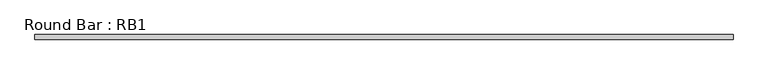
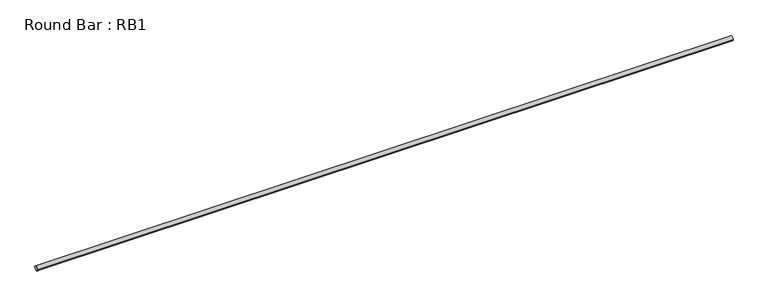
"""IFC4 building model written with IfcOpenShell, lengths in millimetres: beam geometry, Round Bar : RB1."""

from ifc_helpers import new_model, si_unit, point, frame, origin, origin_2d, place, context, project, spatial, circle_curve, trimmed, segment, composite_curve, outline, extrude, source, transform, mapped, element, save


def round_bar_rb1_903308a8(model_context):
    return source(origin(), model_context, "Body", "SweptSolid", [
        extrude(outline(composite_curve([segment(trimmed(circle_curve(origin_2d(), 12.7), [point((-12.7, 0.0))], [point((12.7, 0.0))], False, "CARTESIAN"), True, "CONTINUOUS"), segment(trimmed(circle_curve(origin_2d(), 12.7), [point((12.7, 0.0))], [point((-12.7, 0.0))], False, "CARTESIAN"), True, "CONTINUOUS")], self_intersect=False)), frame((-1905.0, 0.0, 0.0), z_axis=(1.0, 0.0, 0.0), x_axis=(0.0, 1.0, 0.0)), (0.0, 0.0, 1.0), 3810.0),
    ])


if __name__ == "__main__":
    model = new_model("IFC4")
    model_context = context("Model", 3, world=origin())
    ifc_project = project(units=[si_unit("LENGTHUNIT", "METRE", prefix="MILLI")], contexts=[model_context])
    site = spatial("IfcSite", under=ifc_project)
    building = spatial("IfcBuilding", under=site)
    placement = place(None, origin())
    round_bar_rb1_shape = round_bar_rb1_903308a8(model_context)
    element("IfcBeam", 1, ObjectType="Round Bar : RB1", at=placement, inside=building, context=model_context, shape_type="MappedRepresentation", body=[
        mapped(round_bar_rb1_shape, transform((0.0, 0.0, 0.0), x_axis=(1.0, 0.0, 0.0), y_axis=(0.0, 1.0, 0.0), z_axis=(0.0, 0.0, 1.0))),
    ])
    save(model, "model.ifc")
